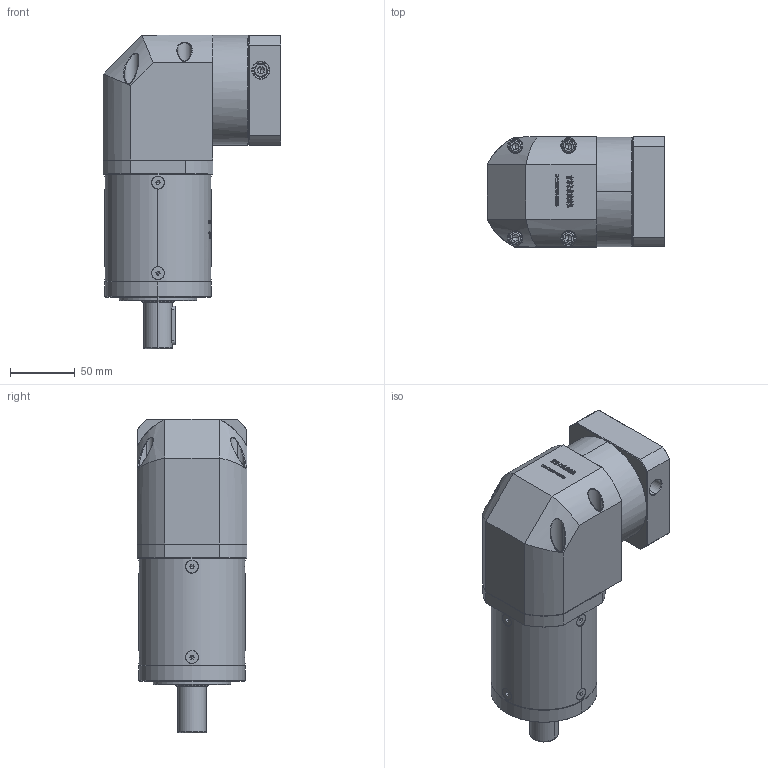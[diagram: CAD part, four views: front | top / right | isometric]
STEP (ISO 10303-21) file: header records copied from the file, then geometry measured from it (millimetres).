
FILE_DESCRIPTION (( 'STEP AP214' ), '1' );
FILE_NAME ('ZER80-D22-L3-14-73-69.6X69.6-M6.step', '2022-09-12T14:37:52', ( '' ), ( 'Microsoft' ), 'SwSTEP 2.0', 'SolidWorks 2016', '' );
FILE_SCHEMA (( 'AUTOMOTIVE_DESIGN' ));
Length unit declared in the file: millimetre
Products named in the file (1): ZER80-D22-L3-14-73-69.6X69.6-M6
Bounding box: 137.6 x 85 x 242.5 mm (x, y, z)
Volume: 1435433.7 mm3; surface area: 142046.1 mm2
Topology: 13 solids, 13 shells, 3143 faces, 8277 edges, 5277 vertices
Faces by surface type: plane 1614, bspline 636, cylinder 535, cone 344, torus 14
Entity records: 175497 total; most frequent: CARTESIAN_POINT 69742, ORIENTED_EDGE 16446, DIRECTION 12167, EDGE_CURVE 8223, VERTEX_POINT 5277, VECTOR 5067, LINE 5067, AXIS2_PLACEMENT_3D 3550
